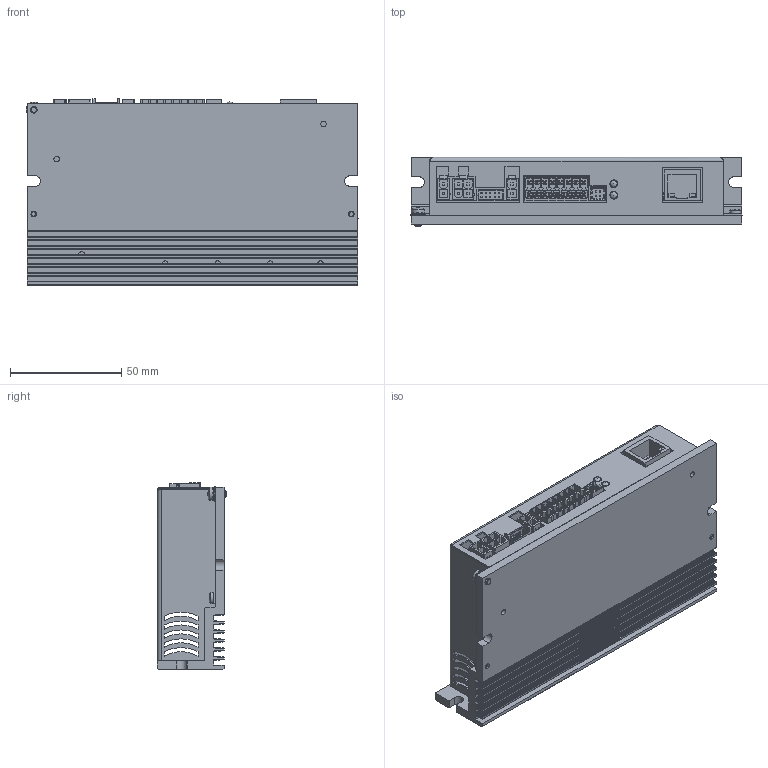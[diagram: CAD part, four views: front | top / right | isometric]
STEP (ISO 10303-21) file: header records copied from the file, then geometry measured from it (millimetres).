
FILE_DESCRIPTION(/* description */ ('Unknown'),/* implementation_level */ '2;1');
FILE_NAME(/* name */ 'SW4A3070E241-00',/* time_stamp */ '2025-01-22T10:03:49+01:00',/* author */ ('Unknown'),/* organization */ ('Unknown'),/* preprocessor_version */ 'ST-DEVELOPER v16.7',/* originating_system */ 'Solid Edge',/* authorisation */ 'Unknown');
FILE_SCHEMA (('AUTOMOTIVE_DESIGN {1 0 10303 214 3 1 1}'));
Products named in the file (34): SW4A3070 con EMD00_Solid Edge; estruso-01_imd03_emd00; ad_00907-00_imd03_00; EMD00-03_solo connettori_2025-01-22_1_oa_0; Board; Open CASCADE STEP translator 7.5 1.1.1; CN6; 878330431; Open CASCADE STEP translator 7.5 1.2.1.1; Open CASCADE STEP translator 7.5 1.2.1.2; CN3; 1786895; dmc_1.5-8-g1-3.5; CN1L; Molex 039300020; Open CASCADE STEP translator 7.5 1.4.1.1; Open CASCADE STEP translator 7.5 1.4.1.2; CN1; CN2; Molex 039300040; Open CASCADE STEP translator 7.5 1.6.1.1; Open CASCADE STEP translator 7.5 1.6.1.2; CN4; DF11-10DP-2DS; DF11-10DP-2DSÈª; CN5A; J0011D01BNL; GL500; 5151061f; scatola_sw4_emd00_00; tcc_M2e5x04; Piana_M3; dentellata_M3; tcc_M3x06
Assembly tree (35 placements, depth 5):
  SW4A3070 con EMD00_Solid Edge
    estruso-01_imd03_emd00
    ad_00907-00_imd03_00
    EMD00-03_solo connettori_2025-01-22_1_oa_0
      Board
        Open CASCADE STEP translator 7.5 1.1.1
      CN6
        878330431
          Open CASCADE STEP translator 7.5 1.2.1.1
          Open CASCADE STEP translator 7.5 1.2.1.2
      CN3
        1786895
          dmc_1.5-8-g1-3.5
      CN1L
        Molex 039300020
          Open CASCADE STEP translator 7.5 1.4.1.1
          Open CASCADE STEP translator 7.5 1.4.1.2
      CN1
        Molex 039300020
          Open CASCADE STEP translator 7.5 1.4.1.1
          Open CASCADE STEP translator 7.5 1.4.1.2
      CN2
        Molex 039300040
          Open CASCADE STEP translator 7.5 1.6.1.1
          Open CASCADE STEP translator 7.5 1.6.1.2
      CN4
        DF11-10DP-2DS
          DF11-10DP-2DSÈª
      CN5A
        J0011D01BNL
      GL500
        5151061f
    scatola_sw4_emd00_00
    tcc_M2e5x04  x2
    Piana_M3
    dentellata_M3
    tcc_M3x06
Bounding box: 149.29 x 31.14 x 84.05 mm (x, y, z)
Volume: 103044.8 mm3; surface area: 116816.3 mm2
Topology: 16 solids, 21 shells, 3439 faces, 9599 edges, 6258 vertices
Faces by surface type: plane 2306, cylinder 807, cone 151, bspline 115, sphere 38, torus 22
Full cylindrical faces by diameter (mm): 0.457 x1, 0.762 x9, 0.888 x16, 0.9 x14, 1.016 x30, 1.27 x6, 1.397 x1, 1.4 x18, 1.53 x1, 1.55 x1, 1.6 x4, 1.778 x4, 1.8 x8, 2.5 x14, 2.7 x6, 2.75 x2, 3 x7, 3.048 x2, 3.2 x8, 3.4 x1, 3.6 x2, 5 x2, 6 x1, 7 x3
Entity records: 123317 total; most frequent: CARTESIAN_POINT 24311, ORIENTED_EDGE 17936, DIRECTION 16995, EDGE_CURVE 9004, LINE 6539, VECTOR 6539, VERTEX_POINT 5984, AXIS2_PLACEMENT_3D 5228
